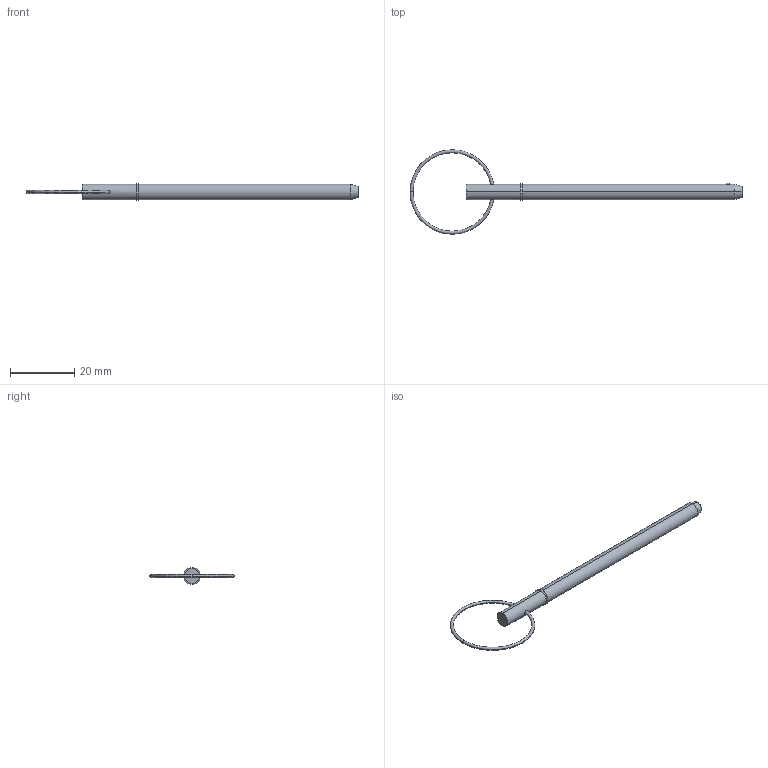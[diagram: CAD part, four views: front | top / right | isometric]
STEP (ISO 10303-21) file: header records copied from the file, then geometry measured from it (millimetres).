
FILE_DESCRIPTION (( 'STEP AP203' ), '1' );
FILE_NAME ('33016.W1825.step', '2024-11-07T11:01:23', ( '' ), ( '' ), 'SwSTEP 2.0', 'SolidWorks 2019', '' );
FILE_SCHEMA (( 'CONFIG_CONTROL_DESIGN' ));
Length unit declared in the file: millimetre
Products named in the file (3): Part1_33016.W1825; Part2_33016.W1825; 33016.W1825
Assembly tree (2 placements, depth 2):
  33016.W1825
    Part1_33016.W1825
    Part2_33016.W1825
Bounding box: 103.56 x 26.35 x 5.24 mm (x, y, z)
Volume: 1575.5 mm3; surface area: 1574 mm2
Topology: 2 solids, 2 shells, 22 faces, 43 edges, 26 vertices
Faces by surface type: torus 8, cylinder 6, plane 4, sphere 2, cone 2
Entity records: 941 total; most frequent: CARTESIAN_POINT 164, DIRECTION 120, ORIENTED_EDGE 86, AXIS2_PLACEMENT_3D 56, EDGE_CURVE 43, CIRCLE 29, EDGE_LOOP 27, VERTEX_POINT 26
